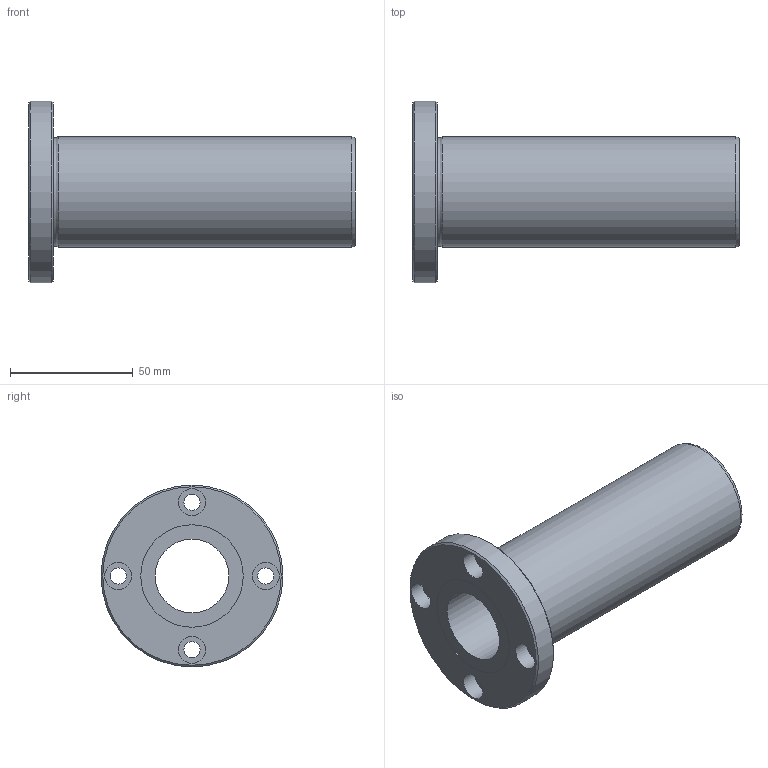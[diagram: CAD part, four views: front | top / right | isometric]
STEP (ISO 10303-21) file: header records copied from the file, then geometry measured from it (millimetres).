
FILE_DESCRIPTION((''),'2;1');
FILE_NAME('D:\製品 (図面)\カタログ用3D\メンテナンスフリー関連\STEP形式\LFD-MF\LFD30MF.stp','2010-06-01T15:46:01',('Tsuchiya'),(''),'Autodesk Inventor 10','Autodesk Inventor 10','');
FILE_SCHEMA(('AUTOMOTIVE_DESIGN { 1 0 10303 214 1 1 1 1 }'));
Length unit declared in the file: millimetre
Products named in the file (1): LFD30MF
Bounding box: 133 x 74 x 74 mm (x, y, z)
Volume: 141249.7 mm3; surface area: 40152.7 mm2
Topology: 1 solids, 1 shells, 26 faces, 47 edges, 30 vertices
Faces by surface type: cylinder 13, plane 9, cone 2, torus 1, bspline 1
Full cylindrical faces by diameter (mm): 6.6 x4, 11 x4, 30 x1, 41.7 x2, 45 x1, 74 x1
Entity records: 665 total; most frequent: CARTESIAN_POINT 149, DIRECTION 112, ORIENTED_EDGE 60, EDGE_LOOP 60, AXIS2_PLACEMENT_3D 56, FACE_BOUND 34, VERTEX_POINT 30, CIRCLE 30
